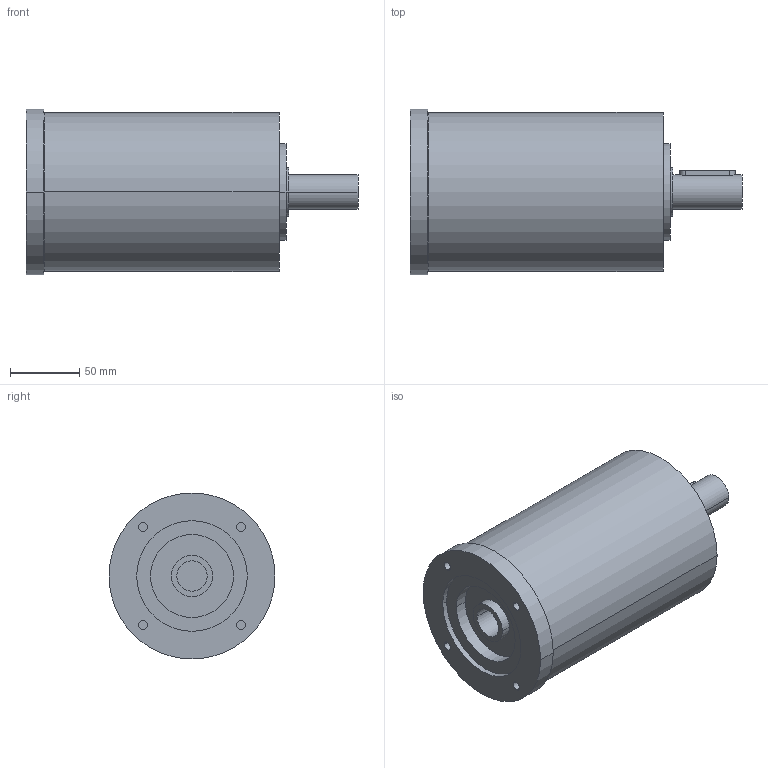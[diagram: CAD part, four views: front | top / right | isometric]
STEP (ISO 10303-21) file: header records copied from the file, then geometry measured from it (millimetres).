
FILE_DESCRIPTION(('CoCreate Modeling STEP Export'),'2;1');
FILE_NAME('GPR125_ig-9-12-16-20-28-35_25_B14_22_P05.stp','2014-08-26T14:10:57',(''),(''),'CoCreate Modeling STEP processor for AP214 (Solid Model)','CoCreate Modeling 16.00C 25-Feb-2009 (C) Parametric Technology GmbH','');
FILE_SCHEMA(('AUTOMOTIVE_DESIGN { 1 0 10303 214 1 1 1 1 }'));
Length unit declared in the file: millimetre
Products named in the file (2): GPR125_ig-9-12-16-20-28-35_25_B14_22_P05
Assembly tree (1 placements, depth 2):
  GPR125_ig-9-12-16-20-28-35_25_B14_22_P05
    GPR125_ig-9-12-16-20-28-35_25_B14_22_P05
Bounding box: 240 x 120 x 120 mm (x, y, z)
Volume: 1889301.4 mm3; surface area: 106343.4 mm2
Topology: 1 solids, 1 shells, 75 faces, 188 edges, 134 vertices
Faces by surface type: cylinder 46, plane 25, cone 4
Entity records: 1915 total; most frequent: ORIENTED_EDGE 372, CARTESIAN_POINT 355, DIRECTION 250, EDGE_CURVE 186, VERTEX_POINT 134, AXIS2_PLACEMENT_3D 97, EDGE_LOOP 96, FACE_OUTER_BOUND 75
